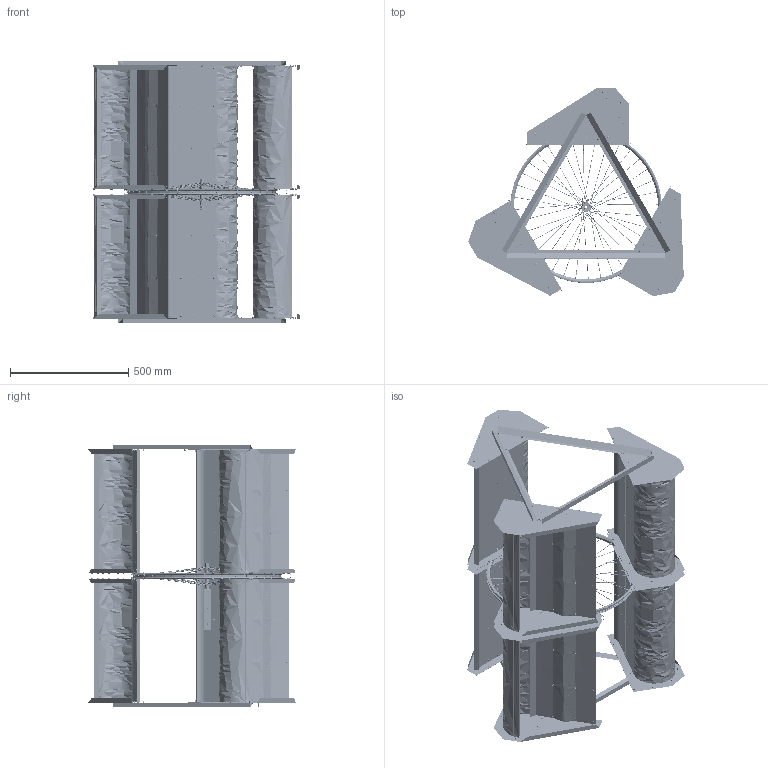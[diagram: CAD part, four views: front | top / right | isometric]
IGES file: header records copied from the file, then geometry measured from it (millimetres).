
Start section: body..SLDPRT - CatalogComponentType body..SLDPRT - PrototypeComponentType body..SLDPRT - PrototypeComponentType clamp..SLDPRT - CatalogComponentType clamp..SLDPRT - PrototypeComponentType clamp..SLDPRT - PrototypeComponentType moer M4..SLDPRT - CatalogComponentType moer M4..SLDPRT - PrototypeComponentType moer M4..SLDPRT - PrototypeComponentType clamp..SLDPRT - CatalogComponentType clamp..SLDPRT -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
Global section: file name: C:\_work\_VAWT\rhino\fullturbine1_02.igs; native system: Rhinoceros ( Jul 16 2013 ); preprocessor: Trout Lake IGES 012 Jul 16 2013; date: 170410.132704; units: millimetre
Bounding box: 909.54 x 878.13 x 1108.94 mm (x, y, z)
Surface area: 6243418.3 mm2 (no closed solid volume)
Topology: 0 solids, 0 shells, 7828 faces, 50281 edges, 47860 vertices
Faces by surface type: bspline 7828
